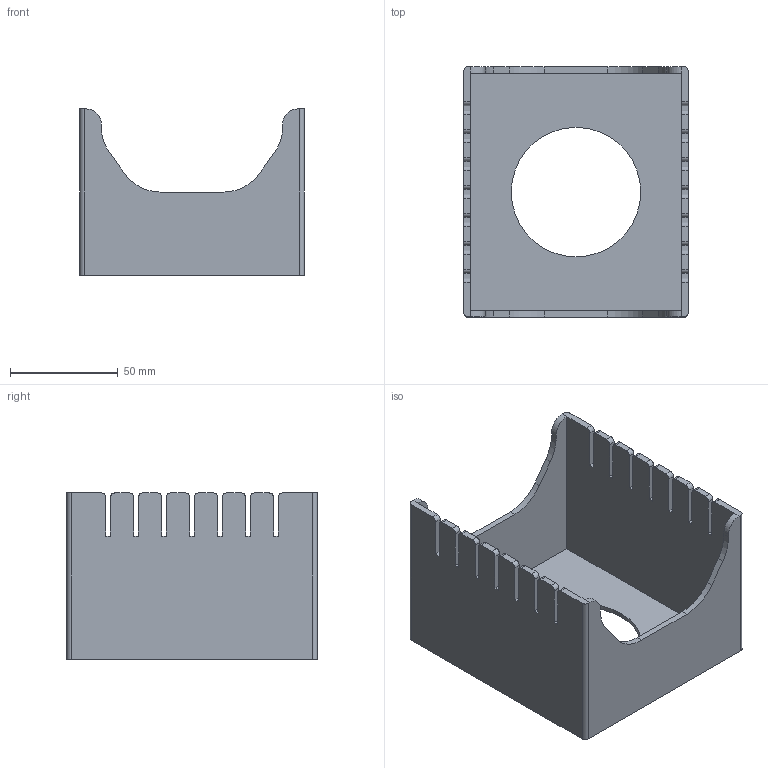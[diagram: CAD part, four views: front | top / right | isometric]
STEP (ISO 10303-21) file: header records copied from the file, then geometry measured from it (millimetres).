
FILE_DESCRIPTION(('Body'),'2;1');
FILE_NAME('Body','2026-09-08T19:01:01',('An Author'),('A Company'), 'Open CASCADE STEP processor 7.9','Dune 3D','Unknown');
FILE_SCHEMA(('AUTOMOTIVE_DESIGN { 1 0 10303 214 1 1 1 1 }'));
Length unit declared in the file: millimetre
Products named in the file (2): Card Tray (short); Body
Assembly tree (1 placements, depth 2):
  Card Tray (short)
    Body
Bounding box: 104 x 116 x 77 mm (x, y, z)
Volume: 95691.6 mm3; surface area: 72986.4 mm2
Topology: 1 solids, 1 shells, 123 faces, 359 edges, 238 vertices
Faces by surface type: plane 78, cylinder 45
Full cylindrical faces by diameter (mm): 60 x1
Entity records: 8809 total; most frequent: CARTESIAN_POINT 1808, DIRECTION 1269, LINE 793, VECTOR 793, ORIENTED_EDGE 718, PCURVE 718, DEFINITIONAL_REPRESENTATION 718, EDGE_CURVE 359
